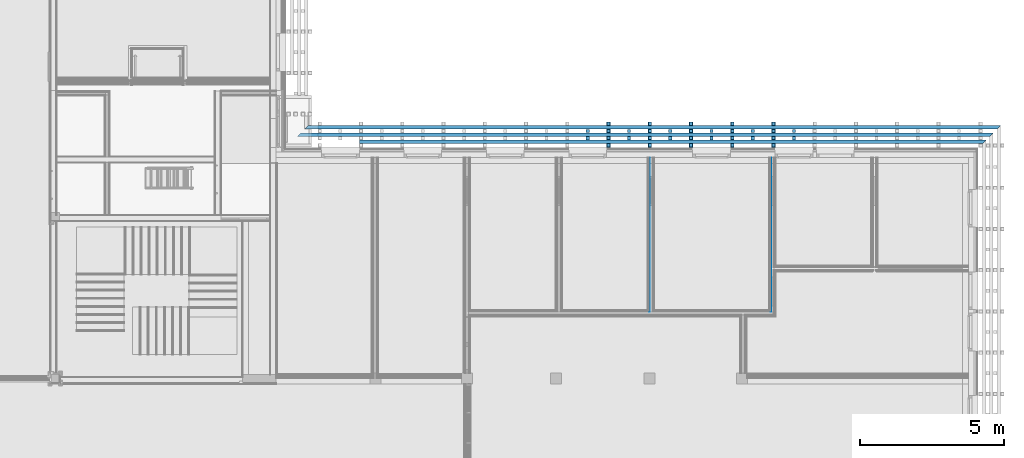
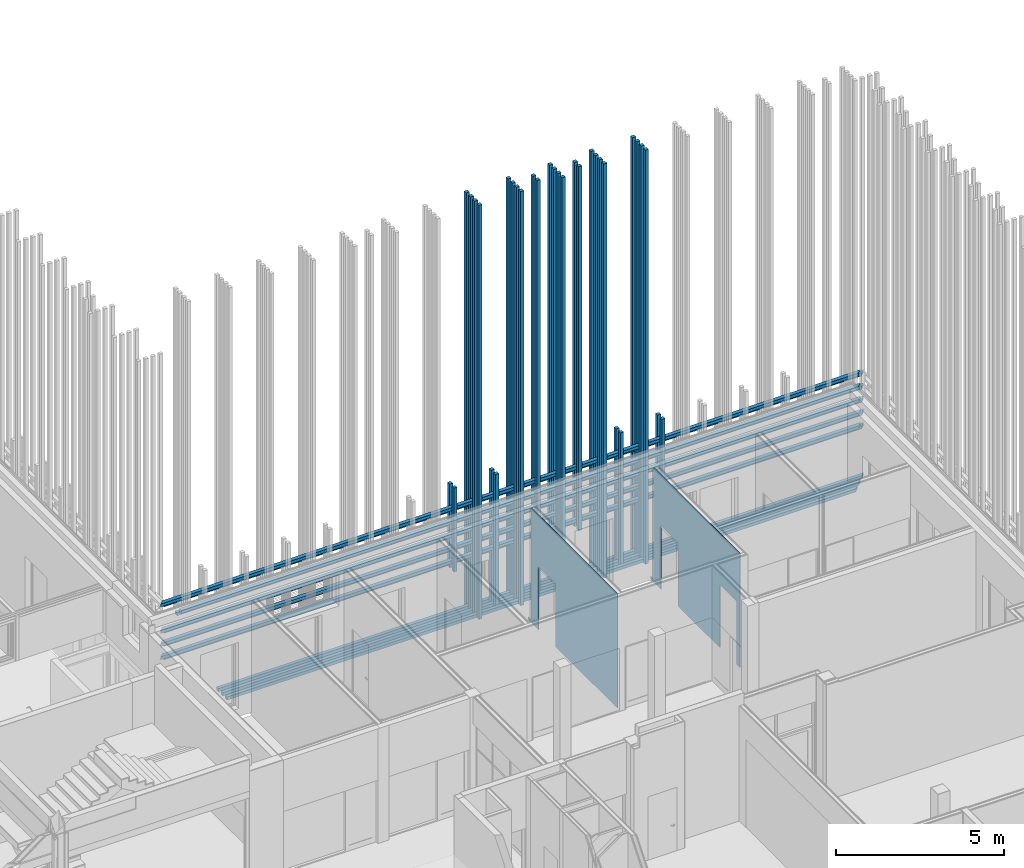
# One storey, part 219 of 260: 17 discrete accessories, 2 building element parts, 3 openings, 2 elements without a shape of their own.
"""IFC2X3 building model written with IfcOpenShell, lengths in millimetres."""

from ifc_helpers import new_model, entity, si_unit, converted_unit, derived_unit, money_unit, direction, frame, origin_with_axes, place, context, subcontext, project, spatial, faceted_brep, material, material_list, type_object, element, aggregate, save


model = new_model("IFC2X3")

# Units and contexts
model_context = context("Model", 3, precision=0.01, world=origin_with_axes(), true_north=direction((0.0, 1.0)))
body_context = subcontext(model_context, "Body", "Model", "MODEL_VIEW")
ifc_project = project(units=[si_unit("LENGTHUNIT", "METRE", prefix="MILLI"), si_unit("AREAUNIT", "SQUARE_METRE"), si_unit("VOLUMEUNIT", "CUBIC_METRE"), converted_unit("PLANEANGLEUNIT", "DEGREE", entity("IfcPlaneAngleMeasure", 0.0174532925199), si_unit("PLANEANGLEUNIT", "RADIAN"), dimensions=[0, 0, 0, 0, 0, 0, 0]), money_unit("EUR"), converted_unit("TIMEUNIT", "Year", entity("IfcTimeMeasure", 31556926.0), si_unit("TIMEUNIT", "SECOND"), dimensions=[0, 0, 1, 0, 0, 0, 0]), si_unit("MASSUNIT", "GRAM", prefix="KILO"), si_unit("THERMODYNAMICTEMPERATUREUNIT", "DEGREE_CELSIUS"), si_unit("LUMINOUSINTENSITYUNIT", "LUMEN"), si_unit("ENERGYUNIT", "JOULE", prefix="MEGA"), derived_unit("THERMALCONDUCTANCEUNIT", [(si_unit("POWERUNIT", "WATT"), 1), (si_unit("LENGTHUNIT", "METRE"), -1), (si_unit("THERMODYNAMICTEMPERATUREUNIT", "KELVIN"), -1)]), derived_unit("SPECIFICHEATCAPACITYUNIT", [(si_unit("ENERGYUNIT", "JOULE"), 1), (si_unit("MASSUNIT", "GRAM", prefix="KILO"), -1), (si_unit("THERMODYNAMICTEMPERATUREUNIT", "KELVIN"), -1)]), derived_unit("MASSDENSITYUNIT", [(si_unit("MASSUNIT", "GRAM", prefix="KILO"), 1), (si_unit("VOLUMEUNIT", "CUBIC_METRE"), -1)])], contexts=[model_context])

# Site, building, storey
site_placement = place(None, origin_with_axes())
site = spatial("IfcSite", under=ifc_project, at=site_placement, Name="Kolde pst 67a", CompositionType="ELEMENT")
building_placement = place(site_placement, origin_with_axes())
building = spatial("IfcBuilding", under=site, at=building_placement, Name="Riigigümnaasium", CompositionType="ELEMENT")
storey_placement = place(building_placement, origin_with_axes())
storey = spatial("IfcBuildingStorey", under=building, at=storey_placement, Name="1. korrus", CompositionType="ELEMENT", Elevation=0.0)

# Discrete accessories
ifc_material_1 = material(Name="_VÄLISVIIMISTLUS - sõrmjätkatud puitprussid 120x115mm, liitekohad vähemärgatavad, Platowood sõrmjätkatud kuusk või samaväärne; eeltöödeldud tuletõkkevõõbaga, tuletundlikkus B-s1, d0, Woodsafe Exterior WFX™ või samaväärne; kinnitused vastavalt EK osale")
ifc_material_list_1 = material_list([ifc_material_1, ifc_material_1, ifc_material_1, ifc_material_1])
discrete_accessory_type_1 = type_object("IfcDiscreteAccessoryType", Name="120 4-ne vertikaalne 870 x 115")
for number, where, z_axis, x_axis in (
    (1, (71972.4904765, 36791.9934955, 280.0), (0.0, 0.0, 1.0), (-6.32316306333e-05, -0.999999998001, 0.0)),
    (2, (73402.4904765, 36791.9924225, 280.0), (0.0, 0.0, 1.0), (-6.32316306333e-05, -0.999999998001, 0.0)),
    (3, (74832.4904765, 36791.9927232, 280.0), (0.0, 0.0, 1.0), (-6.32316306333e-05, -0.999999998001, 0.0)),
    (4, (76262.4904765, 36791.9900925, 280.0), (0.0, 0.0, 1.0), (-6.32316306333e-05, -0.999999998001, 0.0)),
    (5, (77692.4904765, 36791.9928466, 280.0), (0.0, 0.0, 1.0), (-6.32316306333e-05, -0.999999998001, 0.0)),
):
    element("IfcDiscreteAccessory", number, at=place(storey_placement, frame(where, z_axis=z_axis, x_axis=x_axis)), inside=storey, type_object=discrete_accessory_type_1, material=ifc_material_list_1, Name="Päikesevarjestus", context=body_context, shape_type="Brep", body=[
        faceted_brep([(-133.0, -70.0, 0.0), (-13.0, -70.0, 0.0), (-13.0, -70.0, 15050.0), (-133.0, -70.0, 15050.0), (-133.0, 45.0, 0.0), (-13.0, 45.0, 0.0), (-13.0, 45.0, 15050.0), (-133.0, 45.0, 15050.0)], [[[0, 1, 2, 3]], [[0, 4, 5, 1]], [[1, 5, 6, 2]], [[3, 2, 6, 7]], [[4, 0, 3, 7]], [[5, 4, 7, 6]]]),
        faceted_brep([(-383.0, -70.0, 0.0), (-263.0, -70.0, 0.0), (-263.0, -70.0, 15050.0), (-383.0, -70.0, 15050.0), (-383.0, 45.0, 0.0), (-263.0, 45.0, 0.0), (-263.0, 45.0, 15050.0), (-383.0, 45.0, 15050.0)], [[[0, 1, 2, 3]], [[0, 4, 5, 1]], [[1, 5, 6, 2]], [[3, 2, 6, 7]], [[4, 0, 3, 7]], [[5, 4, 7, 6]]]),
        faceted_brep([(-633.0, -70.0, 0.0), (-513.0, -70.0, 0.0), (-513.0, -70.0, 15050.0), (-633.0, -70.0, 15050.0), (-633.0, 45.0, 0.0), (-513.0, 45.0, 0.0), (-513.0, 45.0, 15050.0), (-633.0, 45.0, 15050.0)], [[[0, 1, 2, 3]], [[0, 4, 5, 1]], [[1, 5, 6, 2]], [[3, 2, 6, 7]], [[4, 0, 3, 7]], [[5, 4, 7, 6]]]),
        faceted_brep([(-883.0, -70.0, 0.0), (-763.0, -70.0, 0.0), (-763.0, -70.0, 15050.0), (-883.0, -70.0, 15050.0), (-883.0, 45.0, 0.0), (-763.0, 45.0, 0.0), (-763.0, 45.0, 15050.0), (-883.0, 45.0, 15050.0)], [[[0, 1, 2, 3]], [[0, 4, 5, 1]], [[1, 5, 6, 2]], [[3, 2, 6, 7]], [[4, 0, 3, 7]], [[5, 4, 7, 6]]]),
    ])
ifc_material_list_2 = material_list([ifc_material_1, ifc_material_1, ifc_material_1])
discrete_accessory_type_2 = type_object("IfcDiscreteAccessoryType", Name="120 1+paiksekaitse 3 tk  620 x 115")
discrete_accessory_1_placement = place(storey_placement, frame((84805.0454767, 36804.971892, 352.5), z_axis=(0.0, 0.0, 1.0), x_axis=(-2.43613232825e-07, 1.0, 0.0)))
element("IfcDiscreteAccessory", 6, at=discrete_accessory_1_placement, inside=storey, type_object=discrete_accessory_type_2, material=ifc_material_list_2, Name="Päikesevarjestus", context=body_context, shape_type="Brep", body=[
    faceted_brep([(625.0, 21485.0541798, 45.0), (625.0, -625.000430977, 45.0), (745.0, -745.000513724, 45.0), (745.0, 21485.0541798, 45.0), (625.0, 21485.0541798, -70.0), (625.0, -625.000430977, -70.0), (745.0, -745.000513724, -70.0), (745.0, 21485.0541798, -70.0)], [[[0, 1, 2, 3]], [[4, 5, 1, 0]], [[5, 6, 2, 1]], [[3, 2, 6, 7]], [[4, 0, 3, 7]], [[7, 6, 5, 4]]]),
    faceted_brep([(375.0, 21485.0541798, 45.0), (375.0, -375.000258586, 45.0), (495.0, -495.000341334, 45.0), (495.0, 21485.0541798, 45.0), (375.0, 21485.0541798, -70.0), (375.0, -375.000258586, -70.0), (495.0, -495.000341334, -70.0), (495.0, 21485.0541798, -70.0)], [[[0, 1, 2, 3]], [[4, 5, 1, 0]], [[5, 6, 2, 1]], [[3, 2, 6, 7]], [[4, 0, 3, 7]], [[7, 6, 5, 4]]]),
    faceted_brep([(125.0, 21485.0541798, 45.0), (125.0, -125.000086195, 45.0), (245.0, -245.000168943, 45.0), (245.0, 21485.0541798, 45.0), (125.0, 21485.0541798, -70.0), (125.0, -125.000086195, -70.0), (245.0, -245.000168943, -70.0), (245.0, 21485.0541798, -70.0)], [[[0, 1, 2, 3]], [[4, 5, 1, 0]], [[5, 6, 2, 1]], [[3, 2, 6, 7]], [[4, 0, 3, 7]], [[7, 6, 5, 4]]]),
])
ifc_material_list_3 = material_list([ifc_material_1, ifc_material_1])
discrete_accessory_type_3 = type_object("IfcDiscreteAccessoryType", Name="1+paiksekaitse 4 tk nihkes 2 370 x 355")
for number, where, z_axis, x_axis in (
    (7, (84805.0459495, 36804.9718852, 2580.00014213), (0.0, 0.0, 1.0), (0.0, 1.0, 0.0)),
    (8, (84805.0459495, 36804.9718852, 4020.0), (0.0, 0.0, 1.0), (0.0, 1.0, 0.0)),
):
    element("IfcDiscreteAccessory", number, at=place(storey_placement, frame(where, z_axis=z_axis, x_axis=x_axis)), inside=storey, type_object=discrete_accessory_type_3, material=ifc_material_list_3, Name="Päikesevarjestus", context=body_context, shape_type="Brep", body=[
        faceted_brep([(375.0, 23625.0519453, 347.001360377), (375.0, -375.000046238, 347.001360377), (495.0, -495.000061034, 357.5), (495.0, 23505.0519473, 357.5), (375.0, 23625.0519453, 242.5), (375.0, -375.000046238, 242.5), (495.0, -495.000061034, 242.5), (495.0, 23505.0519473, 242.5)], [[[0, 1, 2, 3]], [[4, 5, 1, 0]], [[5, 6, 2, 1]], [[3, 2, 6, 7]], [[4, 0, 3, 7]], [[7, 6, 5, 4]]]),
        faceted_brep([(625.0, 23375.0519495, 107.001360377), (625.0, -625.000077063, 107.001360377), (745.0, -745.000091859, 117.5), (745.0, 23255.0519514, 117.5), (625.0, 23375.0519495, 2.5), (625.0, -625.000077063, 2.5), (745.0, -745.000091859, 2.5), (745.0, 23255.0519514, 2.5)], [[[0, 1, 2, 3]], [[4, 5, 1, 0]], [[5, 6, 2, 1]], [[3, 2, 6, 7]], [[4, 0, 3, 7]], [[7, 6, 5, 4]]]),
    ])
discrete_accessory_2_placement = place(storey_placement, frame((84805.0459495, 36804.9718852, 3540.0), z_axis=(0.0, 0.0, 1.0), x_axis=(0.0, 1.0, 0.0)))
element("IfcDiscreteAccessory", 9, at=discrete_accessory_2_placement, inside=storey, type_object=discrete_accessory_type_3, material=ifc_material_list_3, Name="Päikesevarjestus", context=body_context, shape_type="Brep", body=[
    faceted_brep([(375.0, 22913.3367447, 347.001360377), (375.0, -375.000046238, 347.001360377), (495.0, -495.000061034, 357.5), (495.0, 22913.3367447, 357.5), (375.0, 22913.3367447, 242.5), (375.0, -375.000046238, 242.5), (495.0, -495.000061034, 242.5), (495.0, 22913.3367447, 242.5)], [[[0, 1, 2, 3]], [[4, 5, 1, 0]], [[5, 6, 2, 1]], [[3, 2, 6, 7]], [[4, 0, 3, 7]], [[7, 6, 5, 4]]]),
    faceted_brep([(625.0, 22913.3367447, 107.001360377), (625.0, -625.000077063, 107.001360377), (745.0, -745.000091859, 117.5), (745.0, 22913.3367447, 117.5), (625.0, 22913.3367447, 2.5), (625.0, -625.000077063, 2.5), (745.0, -745.000091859, 2.5), (745.0, 22913.3367447, 2.5)], [[[0, 1, 2, 3]], [[4, 5, 1, 0]], [[5, 6, 2, 1]], [[3, 2, 6, 7]], [[4, 0, 3, 7]], [[7, 6, 5, 4]]]),
])
for number, where, z_axis, x_axis in (
    (10, (84805.0459495, 36804.9718852, 3060.0), (0.0, 0.0, 1.0), (0.0, 1.0, 0.0)),
    (11, (84805.0459495, 36804.9718852, 2100.00014213), (0.0, 0.0, 1.0), (0.0, 1.0, 0.0)),
):
    element("IfcDiscreteAccessory", number, at=place(storey_placement, frame(where, z_axis=z_axis, x_axis=x_axis)), inside=storey, type_object=discrete_accessory_type_3, material=ifc_material_list_3, Name="Päikesevarjestus", context=body_context, shape_type="Brep", body=[
        faceted_brep([(375.0, 23625.0519453, 347.001360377), (375.0, -375.000046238, 347.001360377), (495.0, -495.000061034, 357.5), (495.0, 23505.0519473, 357.5), (375.0, 23625.0519453, 242.5), (375.0, -375.000046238, 242.5), (495.0, -495.000061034, 242.5), (495.0, 23505.0519473, 242.5)], [[[0, 1, 2, 3]], [[4, 5, 1, 0]], [[5, 6, 2, 1]], [[3, 2, 6, 7]], [[4, 0, 3, 7]], [[7, 6, 5, 4]]]),
        faceted_brep([(625.0, 23375.0519495, 107.001360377), (625.0, -625.000077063, 107.001360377), (745.0, -745.000091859, 117.5), (745.0, 23255.0519514, 117.5), (625.0, 23375.0519495, 2.5), (625.0, -625.000077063, 2.5), (745.0, -745.000091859, 2.5), (745.0, 23255.0519514, 2.5)], [[[0, 1, 2, 3]], [[4, 5, 1, 0]], [[5, 6, 2, 1]], [[3, 2, 6, 7]], [[4, 0, 3, 7]], [[7, 6, 5, 4]]]),
    ])
discrete_accessory_type_4 = type_object("IfcDiscreteAccessoryType", Name="1+paiksekaitse 3 370 x 115")
discrete_accessory_3_placement = place(storey_placement, frame((75475.0296817, 37772.0065764, 2100.00014213), z_axis=(0.0, 0.0, 1.0), x_axis=(0.0, -1.0, 0.0)))
element("IfcDiscreteAccessory", 12, at=discrete_accessory_3_placement, inside=storey, type_object=discrete_accessory_type_4, material=ifc_material_list_3, Name="Päikesevarjestus", context=body_context, shape_type="Brep", body=[
    faceted_brep([(467.0, 117.5, 0.0), (347.0, 117.5, 0.0), (347.0, 117.5, 13229.9998579), (467.0, 117.5, 13229.9998579), (467.0, 2.49999999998, 0.0), (347.0, 2.5, 0.0), (347.0, 2.5, 13229.9998579), (467.0, 2.49999999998, 13229.9998579)], [[[0, 1, 2, 3]], [[0, 4, 5, 1]], [[1, 5, 6, 2]], [[3, 2, 6, 7]], [[4, 0, 3, 7]], [[5, 4, 7, 6]]]),
    faceted_brep([(717.0, 117.5, 0.0), (597.0, 117.5, 0.0), (597.0, 117.5, 13229.9998579), (717.0, 117.5, 13229.9998579), (717.0, 2.5, 0.0), (597.0, 2.5, 0.0), (597.0, 2.5, 13229.9998579), (717.0, 2.5, 13229.9998579)], [[[0, 1, 2, 3]], [[0, 4, 5, 1]], [[1, 5, 6, 2]], [[3, 2, 6, 7]], [[4, 0, 3, 7]], [[5, 4, 7, 6]]]),
])
discrete_accessory_4_placement = place(storey_placement, frame((74045.0296817, 37772.0065764, 280.0), z_axis=(0.0, 0.0, 1.0), x_axis=(0.0, -1.0, 0.0)))
element("IfcDiscreteAccessory", 13, at=discrete_accessory_4_placement, inside=storey, type_object=discrete_accessory_type_4, material=ifc_material_list_3, Name="Päikesevarjestus", context=body_context, shape_type="Brep", body=[
    faceted_brep([(467.0, 117.5, 0.0), (347.0, 117.5, 0.0), (347.0, 117.5, 15050.0), (467.0, 117.5, 15050.0), (467.0, 2.49999999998, 0.0), (347.0, 2.5, 0.0), (347.0, 2.5, 15050.0), (467.0, 2.49999999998, 15050.0)], [[[0, 1, 2, 3]], [[0, 4, 5, 1]], [[1, 5, 6, 2]], [[3, 2, 6, 7]], [[4, 0, 3, 7]], [[5, 4, 7, 6]]]),
    faceted_brep([(717.0, 117.5, 0.0), (597.0, 117.5, 0.0), (597.0, 117.5, 15050.0), (717.0, 117.5, 15050.0), (717.0, 2.5, 0.0), (597.0, 2.5, 0.0), (597.0, 2.5, 15050.0), (717.0, 2.5, 15050.0)], [[[0, 1, 2, 3]], [[0, 4, 5, 1]], [[1, 5, 6, 2]], [[3, 2, 6, 7]], [[4, 0, 3, 7]], [[5, 4, 7, 6]]]),
])
discrete_accessory_5_placement = place(storey_placement, frame((78335.044847, 37771.9921115, 2100.00014213), z_axis=(0.0, 0.0, 1.0), x_axis=(0.0, -1.0, 0.0)))
element("IfcDiscreteAccessory", 14, at=discrete_accessory_5_placement, inside=storey, type_object=discrete_accessory_type_4, material=ifc_material_list_3, Name="Päikesevarjestus", context=body_context, shape_type="Brep", body=[
    faceted_brep([(467.0, 117.5, 0.0), (347.0, 117.5, 0.0), (347.0, 117.5, 3050.0), (467.0, 117.5, 3050.0), (467.0, 2.49999999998, 0.0), (347.0, 2.5, 0.0), (347.0, 2.5, 3050.0), (467.0, 2.49999999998, 3050.0)], [[[0, 1, 2, 3]], [[0, 4, 5, 1]], [[1, 5, 6, 2]], [[3, 2, 6, 7]], [[4, 0, 3, 7]], [[5, 4, 7, 6]]]),
    faceted_brep([(717.0, 117.5, 0.0), (597.0, 117.5, 0.0), (597.0, 117.5, 3050.0), (717.0, 117.5, 3050.0), (717.0, 2.5, 0.0), (597.0, 2.5, 0.0), (597.0, 2.5, 3050.0), (717.0, 2.5, 3050.0)], [[[0, 1, 2, 3]], [[0, 4, 5, 1]], [[1, 5, 6, 2]], [[3, 2, 6, 7]], [[4, 0, 3, 7]], [[5, 4, 7, 6]]]),
])
discrete_accessory_6_placement = place(storey_placement, frame((76905.044847, 37771.9921115, 280.0), z_axis=(0.0, 0.0, 1.0), x_axis=(0.0, -1.0, 0.0)))
element("IfcDiscreteAccessory", 15, at=discrete_accessory_6_placement, inside=storey, type_object=discrete_accessory_type_4, material=ifc_material_list_3, Name="Päikesevarjestus", context=body_context, shape_type="Brep", body=[
    faceted_brep([(467.0, 117.5, 0.0), (347.0, 117.5, 0.0), (347.0, 117.5, 4870.00014213), (467.0, 117.5, 4870.00014213), (467.0, 2.49999999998, 0.0), (347.0, 2.5, 0.0), (347.0, 2.5, 4870.00014213), (467.0, 2.49999999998, 4870.00014213)], [[[0, 1, 2, 3]], [[0, 4, 5, 1]], [[1, 5, 6, 2]], [[3, 2, 6, 7]], [[4, 0, 3, 7]], [[5, 4, 7, 6]]]),
    faceted_brep([(717.0, 117.5, 0.0), (597.0, 117.5, 0.0), (597.0, 117.5, 4870.00014213), (717.0, 117.5, 4870.00014213), (717.0, 2.5, 0.0), (597.0, 2.5, 0.0), (597.0, 2.5, 4870.00014213), (717.0, 2.5, 4870.00014213)], [[[0, 1, 2, 3]], [[0, 4, 5, 1]], [[1, 5, 6, 2]], [[3, 2, 6, 7]], [[4, 0, 3, 7]], [[5, 4, 7, 6]]]),
])
discrete_accessory_7_placement = place(storey_placement, frame((71185.0448307, 37771.9921115, 2100.0), z_axis=(0.0, 0.0, 1.0), x_axis=(0.0, -1.0, 0.0)))
element("IfcDiscreteAccessory", 16, at=discrete_accessory_7_placement, inside=storey, type_object=discrete_accessory_type_4, material=ifc_material_list_3, Name="Päikesevarjestus", context=body_context, shape_type="Brep", body=[
    faceted_brep([(467.0, 117.5, 0.0), (347.0, 117.5, 0.0), (347.0, 117.5, 3050.0), (467.0, 117.5, 3050.0), (467.0, 2.49999999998, 0.0), (347.0, 2.5, 0.0), (347.0, 2.5, 3050.0), (467.0, 2.49999999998, 3050.0)], [[[0, 1, 2, 3]], [[0, 4, 5, 1]], [[1, 5, 6, 2]], [[3, 2, 6, 7]], [[4, 0, 3, 7]], [[5, 4, 7, 6]]]),
    faceted_brep([(717.0, 117.5, 0.0), (597.0, 117.5, 0.0), (597.0, 117.5, 3050.0), (717.0, 117.5, 3050.0), (717.0, 2.5, 0.0), (597.0, 2.5, 0.0), (597.0, 2.5, 3050.0), (717.0, 2.5, 3050.0)], [[[0, 1, 2, 3]], [[0, 4, 5, 1]], [[1, 5, 6, 2]], [[3, 2, 6, 7]], [[4, 0, 3, 7]], [[5, 4, 7, 6]]]),
])
discrete_accessory_8_placement = place(storey_placement, frame((72615.0448307, 37771.9921115, 280.0), z_axis=(0.0, 0.0, 1.0), x_axis=(0.0, -1.0, 0.0)))
element("IfcDiscreteAccessory", 17, at=discrete_accessory_8_placement, inside=storey, type_object=discrete_accessory_type_4, material=ifc_material_list_3, Name="Päikesevarjestus", context=body_context, shape_type="Brep", body=[
    faceted_brep([(467.0, 117.5, 0.0), (347.0, 117.5, 0.0), (347.0, 117.5, 4870.00014213), (467.0, 117.5, 4870.00014213), (467.0, 2.49999999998, 0.0), (347.0, 2.5, 0.0), (347.0, 2.5, 4870.00014213), (467.0, 2.49999999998, 4870.00014213)], [[[0, 1, 2, 3]], [[0, 4, 5, 1]], [[1, 5, 6, 2]], [[3, 2, 6, 7]], [[4, 0, 3, 7]], [[5, 4, 7, 6]]]),
    faceted_brep([(717.0, 117.5, 0.0), (597.0, 117.5, 0.0), (597.0, 117.5, 4870.00014213), (717.0, 117.5, 4870.00014213), (717.0, 2.5, 0.0), (597.0, 2.5, 0.0), (597.0, 2.5, 4870.00014213), (717.0, 2.5, 4870.00014213)], [[[0, 1, 2, 3]], [[0, 4, 5, 1]], [[1, 5, 6, 2]], [[3, 2, 6, 7]], [[4, 0, 3, 7]], [[5, 4, 7, 6]]]),
])

# Wall, opening, building element part
wall_type = type_object("IfcWallType", Name="SS-PK-10/1_vill100+2dold 220", PredefinedType="NOTDEFINED")
wall_1_placement = place(storey_placement, frame((73329.99953, 30929.9996719, 0.0), z_axis=(0.0, 0.0, 1.0), x_axis=(0.0, 1.0, 0.0)))
wall_1 = element("IfcWall", 18, at=wall_1_placement, inside=storey, type_object=wall_type, Name="Sisesein")
opening_1_placement = place(wall_1_placement, frame((4360.00002788, 0.0, 0.0), z_axis=(0.0, 0.0, 1.0), x_axis=(1.0, 0.0, 0.0)))
element("IfcOpeningElement", 19, at=opening_1_placement, cuts=wall_1, Name="Siseuks", context=body_context, shape_type="Brep", body=[
    faceted_brep([(500.0, -440.0, 2300.0), (500.0, -440.0, 0.0), (500.0, -50.0, 0.0), (500.0, -50.0, 2300.0), (-500.0, -440.0, 2300.0), (-500.0, -440.0, 0.0), (-500.0, -50.0, 0.0), (-500.0, -50.0, 2300.0)], [[[0, 1, 2, 3]], [[0, 4, 5, 1]], [[1, 5, 6, 2]], [[3, 2, 6, 7]], [[4, 0, 3, 7]], [[5, 4, 7, 6]]]),
    faceted_brep([(500.0, 220.0, 0.0), (500.0, 220.0, 2300.0), (500.0, -50.0, 2300.0), (500.0, -50.0, 0.0), (-500.0, 220.0, 0.0), (-500.0, 220.0, 2300.0), (-500.0, -50.0, 2300.0), (-500.0, -50.0, 0.0)], [[[0, 1, 2, 3]], [[0, 4, 5, 1]], [[1, 5, 6, 2]], [[3, 2, 6, 7]], [[4, 0, 3, 7]], [[5, 4, 7, 6]]]),
])
ifc_material_2 = material(Name="_PLAATMATERJAL - tuletõkkekipsplaat, Knauf Red GKF või samaväärne")
building_element_part_1_placement = place(wall_1_placement, origin_with_axes())
building_element_part_1 = element("IfcBuildingElementPart", 20, at=building_element_part_1_placement, material=ifc_material_2, Name="_PLAATMATERJAL - tuletõkkekipsplaat, Knauf Red GKF või samaväärne", context=body_context, shape_type="Brep", body=[
    faceted_brep([(175.0, -60.0, 0.0), (3860.00002788, -60.0, 0.0), (3860.00002788, -60.0, 2300.0), (4860.00002788, -60.0, 2300.0), (4860.00002788, -60.0, 0.0), (5510.00002788, -60.0, 0.0), (5510.00002788, -60.0, 100.0), (5310.00002788, -60.0, 100.0), (5310.00002788, -60.0, 4170.0), (175.0, -60.0, 4170.0), (3860.00002788, -45.0, 0.0), (3860.00002788, -50.0, 0.0), (175.0, -45.0, 0.0), (3860.00002788, -45.0, 2300.0), (4860.00002788, -45.0, 2300.0), (4860.00002788, -45.0, 0.0), (4860.00002788, -50.0, 0.0), (5510.00002788, -45.0, 0.0), (5510.00002788, -45.0, 100.0), (5310.00002788, -45.0, 100.0), (5310.00002788, -45.0, 4170.0), (175.0, -45.0, 4170.0)], [[[0, 1, 2, 3, 4, 5, 6, 7, 8, 9]], [[10, 11, 1, 0, 12]], [[13, 2, 1, 11, 10]], [[14, 3, 2, 13]], [[15, 16, 4, 3, 14]], [[5, 4, 16, 15, 17]], [[18, 6, 5, 17]], [[7, 6, 18, 19]], [[8, 7, 19, 20]], [[8, 20, 21, 9]], [[21, 12, 0, 9]], [[18, 17, 15, 14, 13, 10, 12, 21, 20, 19]]]),
])
aggregate(wall_1, [building_element_part_1])

# Wall, openings, building element part
wall_2_placement = place(storey_placement, frame((77599.9912984, 36439.9996998, 0.0), z_axis=(0.0, 0.0, 1.0), x_axis=(0.0, -1.0, 0.0)))
wall_2 = element("IfcWall", 21, at=wall_2_placement, inside=storey, type_object=wall_type, Name="Sisesein")
opening_2_placement = place(wall_2_placement, frame((4640.00002788, 0.0, 0.0), z_axis=(0.0, 0.0, 1.0), x_axis=(1.0, 0.0, 0.0)))
element("IfcOpeningElement", 22, at=opening_2_placement, cuts=wall_2, Name="Siseuks", context=body_context, shape_type="Brep", body=[
    faceted_brep([(500.0, -10.0, 2300.0), (500.0, -10.0, 0.0), (500.0, 380.0, 0.0), (500.0, 380.0, 2300.0), (-500.0, -10.0, 2300.0), (-500.0, -10.0, 0.0), (-500.0, 380.0, 0.0), (-500.0, 380.0, 2300.0)], [[[0, 1, 2, 3]], [[0, 4, 5, 1]], [[1, 5, 6, 2]], [[3, 2, 6, 7]], [[4, 0, 3, 7]], [[5, 4, 7, 6]]]),
    faceted_brep([(500.0, -10.0, 0.0), (500.0, -10.0, 2300.0), (500.0, -280.0, 2300.0), (500.0, -280.0, 0.0), (-500.0, -10.0, 0.0), (-500.0, -10.0, 2300.0), (-500.0, -280.0, 2300.0), (-500.0, -280.0, 0.0)], [[[0, 1, 2, 3]], [[0, 4, 5, 1]], [[1, 5, 6, 2]], [[3, 2, 6, 7]], [[4, 0, 3, 7]], [[5, 4, 7, 6]]]),
])
opening_3_placement = place(wall_2_placement, frame((1150.0, 0.0, 0.0), z_axis=(0.0, 0.0, 1.0), x_axis=(1.0, 0.0, 0.0)))
element("IfcOpeningElement", 23, at=opening_3_placement, cuts=wall_2, Name="Siseuks", context=body_context, shape_type="Brep", body=[
    faceted_brep([(-500.0, 380.0, 2300.0), (-500.0, 380.0, 0.0), (-500.0, -10.0, 0.0), (-500.0, -10.0, 2300.0), (500.0, 380.0, 2300.0), (500.0, 380.0, 0.0), (500.0, -10.0, 0.0), (500.0, -10.0, 2300.0)], [[[0, 1, 2, 3]], [[0, 4, 5, 1]], [[1, 5, 6, 2]], [[3, 2, 6, 7]], [[4, 0, 3, 7]], [[5, 4, 7, 6]]]),
    faceted_brep([(-500.0, -280.0, 0.0), (-500.0, -280.0, 2300.0), (-500.0, -10.0, 2300.0), (-500.0, -10.0, 0.0), (500.0, -280.0, 0.0), (500.0, -280.0, 2300.0), (500.0, -10.0, 2300.0), (500.0, -10.0, 0.0)], [[[0, 1, 2, 3]], [[0, 4, 5, 1]], [[1, 5, 6, 2]], [[3, 2, 6, 7]], [[4, 0, 3, 7]], [[5, 4, 7, 6]]]),
])
building_element_part_2_placement = place(wall_2_placement, origin_with_axes())
building_element_part_2 = element("IfcBuildingElementPart", 24, at=building_element_part_2_placement, material=ifc_material_2, Name="_PLAATMATERJAL - tuletõkkekipsplaat, Knauf Red GKF või samaväärne", context=body_context, shape_type="Brep", body=[
    faceted_brep([(1650.0, 0.0, 0.0), (1650.0, 0.0, 2300.0), (650.0, 0.0, 2300.0), (650.0, 0.0, 0.0), (0.0, 0.0, 0.0), (0.0, 0.0, 100.0), (200.0, 0.0, 100.0), (200.0, 0.0, 4156.9), (5335.00002788, 0.0, 4156.9), (5335.00002788, 0.0, 0.0), (5140.00002788, 0.0, 0.0), (5140.00002788, 0.0, 2300.0), (4140.00002788, 0.0, 2300.0), (4140.00002788, 0.0, 0.0), (1650.0, -10.0, 0.0), (1650.0, -15.0, 0.0), (1650.0, -15.0, 2300.0), (650.0, -15.0, 2300.0), (650.0, -10.0, 0.0), (650.0, -15.0, 0.0), (0.0, -15.0, 0.0), (0.0, -15.0, 100.0), (200.0, -15.0, 100.0), (200.0, -15.0, 4156.9), (5335.00002788, -15.0, 4156.9), (5335.00002788, -15.0, 0.0), (5140.00002788, -15.0, 0.0), (5140.00002788, -15.0, 2300.0), (4140.00002788, -15.0, 2300.0), (4140.00002788, -15.0, 0.0)], [[[0, 1, 2, 3, 4, 5, 6, 7, 8, 9, 10, 11, 12, 13]], [[1, 0, 14, 15, 16]], [[2, 1, 16, 17]], [[18, 3, 2, 17, 19]], [[3, 18, 19, 20, 4]], [[20, 21, 5, 4]], [[22, 6, 5, 21]], [[23, 7, 6, 22]], [[8, 7, 23, 24]], [[8, 24, 25, 9]], [[25, 26, 10, 9]], [[26, 27, 11, 10]], [[27, 28, 12, 11]], [[28, 29, 13, 12]], [[14, 0, 13, 29, 15]], [[20, 19, 17, 16, 15, 29, 28, 27, 26, 25, 24, 23, 22, 21]]]),
])
aggregate(wall_2, [building_element_part_2])

save(model, "model.ifc")
